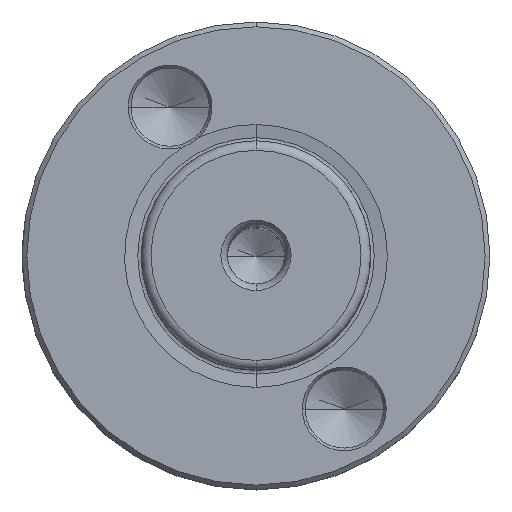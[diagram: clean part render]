
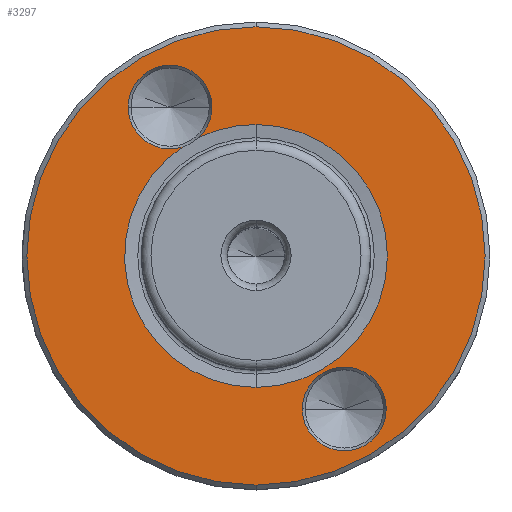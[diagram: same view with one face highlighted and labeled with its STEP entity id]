
A CAD part, top view. The second image highlights one B-rep face of the part: STEP entity #3297.
In plain terms, the highlighted planar face has unit normal (0, 0, 1) as drawn and (0, 0, -1) by its records, which use the part's own axes.
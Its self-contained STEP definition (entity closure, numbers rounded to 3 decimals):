
#412=CARTESIAN_POINT('',(0.,0.,0.));
#413=DIRECTION('',(0.,0.,1.));
#414=DIRECTION('',(0.,1.,0.));
#415=AXIS2_PLACEMENT_3D('',#412,#413,#414);
#420=CARTESIAN_POINT('',(0.,0.,0.));
#421=DIRECTION('',(0.,0.,-1.));
#422=DIRECTION('',(0.,1.,0.));
#423=AXIS2_PLACEMENT_3D('',#420,#421,#422);
#428=CARTESIAN_POINT('',(9.,15.588,0.));
#429=DIRECTION('',(0.,0.,1.));
#430=DIRECTION('',(-1.,0.,0.));
#431=AXIS2_PLACEMENT_3D('',#428,#429,#430);
#436=CARTESIAN_POINT('',(9.,15.588,0.));
#437=DIRECTION('',(0.,0.,1.));
#438=DIRECTION('',(1.,0.,0.));
#439=AXIS2_PLACEMENT_3D('',#436,#437,#438);
#444=CARTESIAN_POINT('',(9.,15.588,0.));
#445=DIRECTION('',(0.,0.,1.));
#446=DIRECTION('',(-0.288,-0.958,0.));
#447=AXIS2_PLACEMENT_3D('',#444,#445,#446);
#452=CARTESIAN_POINT('',(0.,0.,0.));
#453=DIRECTION('',(0.,0.,-1.));
#454=DIRECTION('',(0.562,0.827,0.));
#455=AXIS2_PLACEMENT_3D('',#452,#453,#454);
#460=CARTESIAN_POINT('',(0.,0.,0.));
#461=DIRECTION('',(0.,0.,1.));
#462=DIRECTION('',(0.,1.,0.));
#463=AXIS2_PLACEMENT_3D('',#460,#461,#462);
#468=CARTESIAN_POINT('',(0.,0.,0.));
#469=DIRECTION('',(0.,0.,-1.));
#470=DIRECTION('',(0.,1.,0.));
#471=AXIS2_PLACEMENT_3D('',#468,#469,#470);
#476=CARTESIAN_POINT('',(-9.25,-16.021,0.));
#477=DIRECTION('',(0.,0.,1.));
#478=DIRECTION('',(-1.,0.,0.));
#479=AXIS2_PLACEMENT_3D('',#476,#477,#478);
#484=CARTESIAN_POINT('',(-9.25,-16.021,0.));
#485=DIRECTION('',(0.,0.,1.));
#486=DIRECTION('',(1.,0.,0.));
#487=AXIS2_PLACEMENT_3D('',#484,#485,#486);
#492=CARTESIAN_POINT('',(5.993,12.392,0.));
#497=CARTESIAN_POINT('',(7.735,11.386,0.));
#2681=CARTESIAN_POINT('',(0.,13.765,0.));
#2682=VERTEX_POINT('',#2681);
#2683=CARTESIAN_POINT('',(0.,24.,0.));
#2685=VERTEX_POINT('',#2683);
#2703=CARTESIAN_POINT('',(0.,-13.765,0.));
#2704=VERTEX_POINT('',#2703);
#2705=CARTESIAN_POINT('',(0.,-24.,0.));
#2707=VERTEX_POINT('',#2705);
#2749=VERTEX_POINT('',#492);
#2750=VERTEX_POINT('',#497);
#2751=CARTESIAN_POINT('',(4.611,15.588,0.));
#2752=VERTEX_POINT('',#2751);
#2753=CARTESIAN_POINT('',(13.389,15.588,0.));
#2754=VERTEX_POINT('',#2753);
#2765=CARTESIAN_POINT('',(-13.639,-16.021,0.));
#2766=CARTESIAN_POINT('',(-4.861,-16.021,0.));
#2767=VERTEX_POINT('',#2765);
#2768=VERTEX_POINT('',#2766);
#3268=CARTESIAN_POINT('',(0.,0.,0.));
#3269=DIRECTION('',(0.,0.,-1.));
#3270=DIRECTION('',(0.,-1.,0.));
#3271=AXIS2_PLACEMENT_3D('',#3268,#3269,#3270);
#3272=PLANE('',#3271);
#3273=ORIENTED_EDGE('',*,*,#3250,.T.);
#3274=ORIENTED_EDGE('',*,*,#3261,.F.);
#3275=EDGE_LOOP('',(#3273,#3274));
#3276=FACE_OUTER_BOUND('',#3275,.F.);
#3278=ORIENTED_EDGE('',*,*,#3277,.F.);
#3280=ORIENTED_EDGE('',*,*,#3279,.F.);
#3282=ORIENTED_EDGE('',*,*,#3281,.F.);
#3284=ORIENTED_EDGE('',*,*,#3283,.T.);
#3286=ORIENTED_EDGE('',*,*,#3285,.F.);
#3288=ORIENTED_EDGE('',*,*,#3287,.T.);
#3289=EDGE_LOOP('',(#3278,#3280,#3282,#3284,#3286,#3288));
#3290=FACE_BOUND('',#3289,.F.);
#3292=ORIENTED_EDGE('',*,*,#3291,.F.);
#3294=ORIENTED_EDGE('',*,*,#3293,.F.);
#3295=EDGE_LOOP('',(#3292,#3294));
#3296=FACE_BOUND('',#3295,.F.);
#3297=ADVANCED_FACE('',(#3276,#3290,#3296),#3272,.T.);
#416=CIRCLE('',#415,24.);
#424=CIRCLE('',#423,24.);
#432=CIRCLE('',#431,4.389);
#440=CIRCLE('',#439,4.389);
#448=CIRCLE('',#447,4.389);
#456=CIRCLE('',#455,13.765);
#464=CIRCLE('',#463,13.765);
#472=CIRCLE('',#471,13.765);
#480=CIRCLE('',#479,4.389);
#488=CIRCLE('',#487,4.389);
#3250=EDGE_CURVE('',#2685,#2707,#416,.T.);
#3261=EDGE_CURVE('',#2685,#2707,#424,.T.);
#3277=EDGE_CURVE('',#2752,#2749,#432,.T.);
#3279=EDGE_CURVE('',#2754,#2752,#440,.T.);
#3281=EDGE_CURVE('',#2750,#2754,#448,.T.);
#3283=EDGE_CURVE('',#2750,#2704,#456,.T.);
#3285=EDGE_CURVE('',#2682,#2704,#464,.T.);
#3287=EDGE_CURVE('',#2682,#2749,#472,.T.);
#3291=EDGE_CURVE('',#2767,#2768,#480,.T.);
#3293=EDGE_CURVE('',#2768,#2767,#488,.T.);
